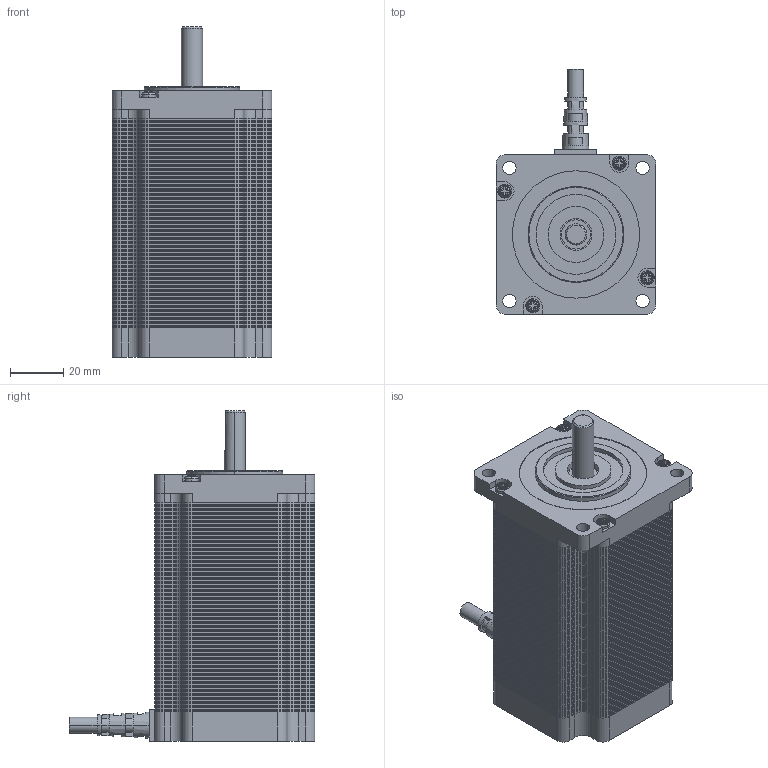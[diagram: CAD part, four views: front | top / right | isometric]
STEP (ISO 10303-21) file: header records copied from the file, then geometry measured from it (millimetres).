
FILE_DESCRIPTION (( 'STEP AP203' ), '1' );
FILE_NAME ('SM2405.STEP', '2020-05-23T05:52:28', ( 'Windows' ), ( 'Microsoft' ), 'SwSTEP 2.0', 'SolidWorks 2016', '' );
FILE_SCHEMA (( 'CONFIG_CONTROL_DESIGN' ));
Products named in the file (1): SM2405
Bounding box: 60 x 92.2 x 124 mm (x, y, z)
Volume: 320482.7 mm3; surface area: 1029933.8 mm2
Topology: 160 solids, 160 shells, 4391 faces, 12119 edges, 8063 vertices
Faces by surface type: plane 2361, cylinder 1991, torus 16, cone 15, sphere 8
Entity records: 140785 total; most frequent: CARTESIAN_POINT 24930, DIRECTION 24894, ORIENTED_EDGE 24222, EDGE_CURVE 12111, AXIS2_PLACEMENT_3D 8465, VERTEX_POINT 8063, LINE 7964, VECTOR 7964
